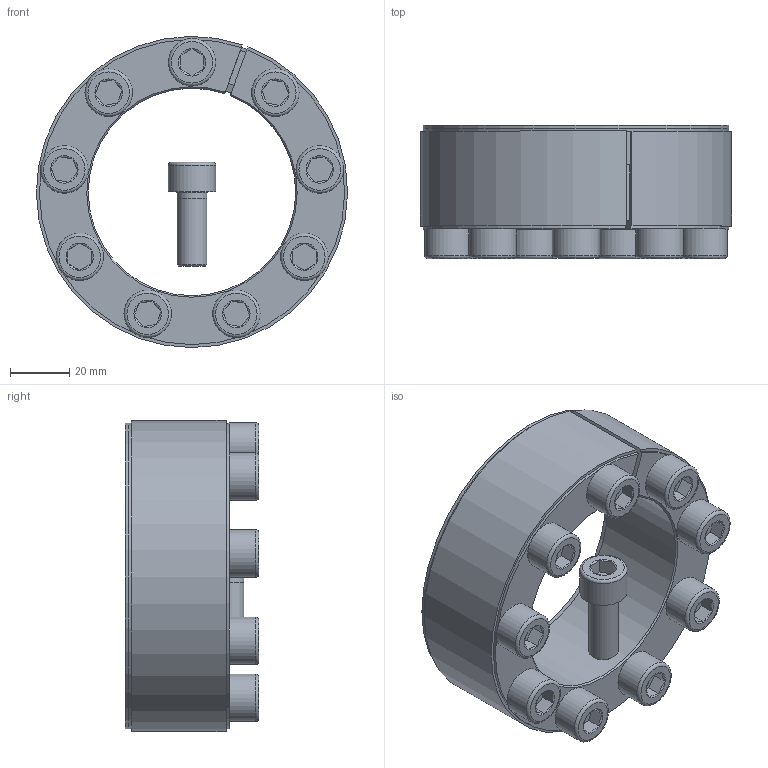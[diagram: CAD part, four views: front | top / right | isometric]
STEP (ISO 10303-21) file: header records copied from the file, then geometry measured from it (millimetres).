
FILE_DESCRIPTION( ( 'Unknown' ), '1' );
FILE_NAME( 'C:/Dokumente und Einstellungen/Sven/Desktop/homepage/cad - homepage/KBS52/KBS 52 - 70 x 105.stp', 'Unknown', ( 'Unknown' ), ( 'Unknown' ), 'XStep 1.0', 'Unknown', ' ' );
FILE_SCHEMA( ( 'automotive_design' ) );
Length unit declared in the file: millimetre
Products named in the file (3): Assem1; KBS 52 - 70 x 105; ISO EN DIN 4762 M10x25
Bounding box: 105 x 45 x 104.99 mm (x, y, z)
Volume: 320639.8 mm3; surface area: 93525.2 mm2
Topology: 12 solids, 12 shells, 308 faces, 606 edges, 360 vertices
Faces by surface type: plane 146, cone 76, cylinder 66, torus 20
Full cylindrical faces by diameter (mm): 9 x10, 10 x38, 16 x10, 103.175 x2
Entity records: 1789 total; most frequent: CARTESIAN_POINT 289, DIRECTION 271, ORIENTED_EDGE 200, AXIS2_PLACEMENT_3D 114, EDGE_CURVE 100, EDGE_LOOP 96, VERTEX_POINT 72, FACE_OUTER_BOUND 70
